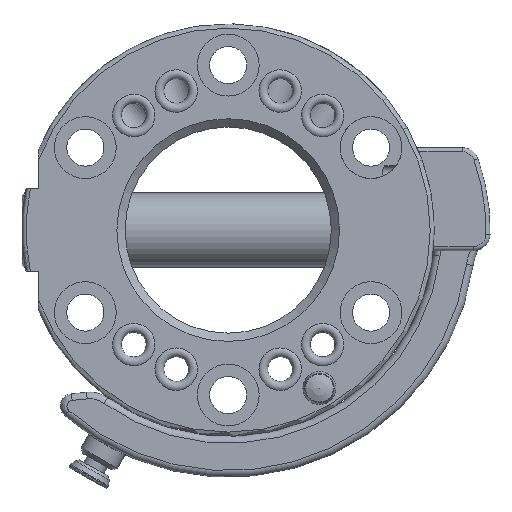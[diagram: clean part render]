
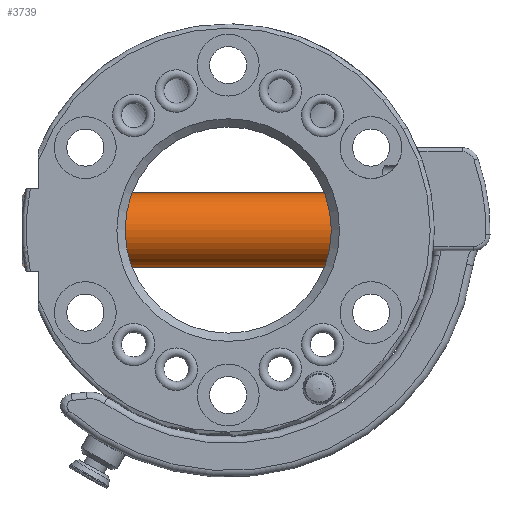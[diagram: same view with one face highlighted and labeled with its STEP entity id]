
A CAD part, front view. The second image highlights one B-rep face of the part: STEP entity #3739.
In plain terms, the highlighted cylindrical face has radius 9 mm (diameter 18 mm), a full revolution.
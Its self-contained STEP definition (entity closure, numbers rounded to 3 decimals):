
#386=CIRCLE('',#4150,9.);
#387=CIRCLE('',#4151,9.);
#389=CIRCLE('',#4154,9.);
#390=CIRCLE('',#4155,9.);
#589=CYLINDRICAL_SURFACE('',#4153,9.);
#727=FACE_OUTER_BOUND('',#988,.T.);
#988=EDGE_LOOP('',(#2955,#2956,#2957,#2958,#2959,#2960));
#1179=LINE('',#6776,#1326);
#1326=VECTOR('',#5084,9.);
#1627=VERTEX_POINT('',#6764);
#1628=VERTEX_POINT('',#6765);
#1630=VERTEX_POINT('',#6772);
#1631=VERTEX_POINT('',#6773);
#2088=EDGE_CURVE('',#1627,#1628,#386,.T.);
#2089=EDGE_CURVE('',#1628,#1627,#387,.T.);
#2092=EDGE_CURVE('',#1630,#1631,#389,.T.);
#2093=EDGE_CURVE('',#1631,#1630,#390,.T.);
#2094=EDGE_CURVE('',#1631,#1628,#1179,.T.);
#2955=ORIENTED_EDGE('',*,*,#2092,.F.);
#2956=ORIENTED_EDGE('',*,*,#2093,.F.);
#2957=ORIENTED_EDGE('',*,*,#2094,.T.);
#2958=ORIENTED_EDGE('',*,*,#2088,.F.);
#2959=ORIENTED_EDGE('',*,*,#2089,.F.);
#2960=ORIENTED_EDGE('',*,*,#2094,.F.);
#3739=ADVANCED_FACE('',(#727),#589,.T.);
#4150=AXIS2_PLACEMENT_3D('',#6766,#5071,#5072);
#4151=AXIS2_PLACEMENT_3D('',#6767,#5073,#5074);
#4153=AXIS2_PLACEMENT_3D('',#6771,#5078,#5079);
#4154=AXIS2_PLACEMENT_3D('',#6774,#5080,#5081);
#4155=AXIS2_PLACEMENT_3D('',#6775,#5082,#5083);
#5071=DIRECTION('center_axis',(-1.,0.,0.));
#5072=DIRECTION('ref_axis',(0.,0.,
1.));
#5073=DIRECTION('center_axis',(-1.,0.,0.));
#5074=DIRECTION('ref_axis',(0.,0.,
1.));
#5078=DIRECTION('center_axis',(1.,0.,0.));
#5079=DIRECTION('ref_axis',(0.,0.,
-1.));
#5080=DIRECTION('center_axis',(1.,0.,0.));
#5081=DIRECTION('ref_axis',(0.,0.,
1.));
#5082=DIRECTION('center_axis',(1.,0.,0.));
#5083=DIRECTION('ref_axis',(0.,0.,
1.));
#5084=DIRECTION('',(-1.,0.,0.));
#6764=CARTESIAN_POINT('',(-49.5,14.,-9.));
#6765=CARTESIAN_POINT('',(-49.5,14.,9.));
#6766=CARTESIAN_POINT('Origin',(-49.5,14.,0.));
#6767=CARTESIAN_POINT('Origin',(-49.5,14.,0.));
#6771=CARTESIAN_POINT('Origin',(-45.75,14.,0.));
#6772=CARTESIAN_POINT('',(39.5,14.,-9.));
#6773=CARTESIAN_POINT('',(39.5,14.,9.));
#6774=CARTESIAN_POINT('Origin',(39.5,14.,0.));
#6775=CARTESIAN_POINT('Origin',(39.5,14.,0.));
#6776=CARTESIAN_POINT('',(-45.75,14.,9.));
